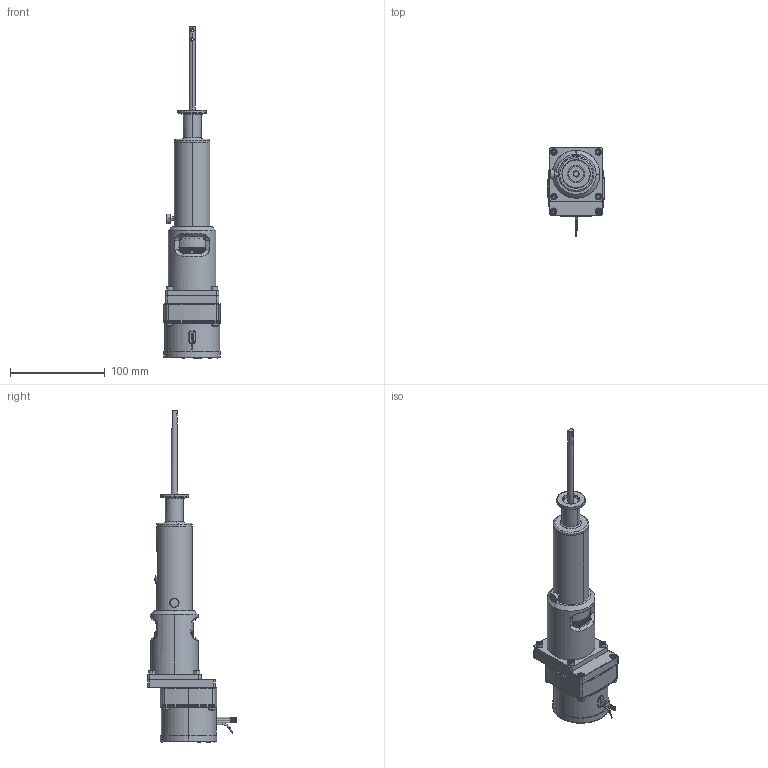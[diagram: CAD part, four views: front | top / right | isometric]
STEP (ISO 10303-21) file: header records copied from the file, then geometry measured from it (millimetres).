
FILE_DESCRIPTION (( 'STEP AP203' ), '1' );
FILE_NAME ('102250.21.stp', '2019-04-04T21:15:37', ( '' ), ( '' ), 'SwSTEP 2.0', 'SolidWorks 2012', '' );
FILE_SCHEMA (( 'CONFIG_CONTROL_DESIGN' ));
Products named in the file (1): 102250.21
Bounding box: 60.05 x 93.89 x 350.62 mm (x, y, z)
Volume: 461111.5 mm3; surface area: 55505.6 mm2
Topology: 1 solids, 10 shells, 1311 faces, 3480 edges, 2244 vertices
Faces by surface type: plane 609, cylinder 378, bspline 172, cone 152
Entity records: 67889 total; most frequent: CARTESIAN_POINT 36817, ORIENTED_EDGE 6936, DIRECTION 5814, EDGE_CURVE 3468, VERTEX_POINT 2244, AXIS2_PLACEMENT_3D 2099, VECTOR 1616, LINE 1616
